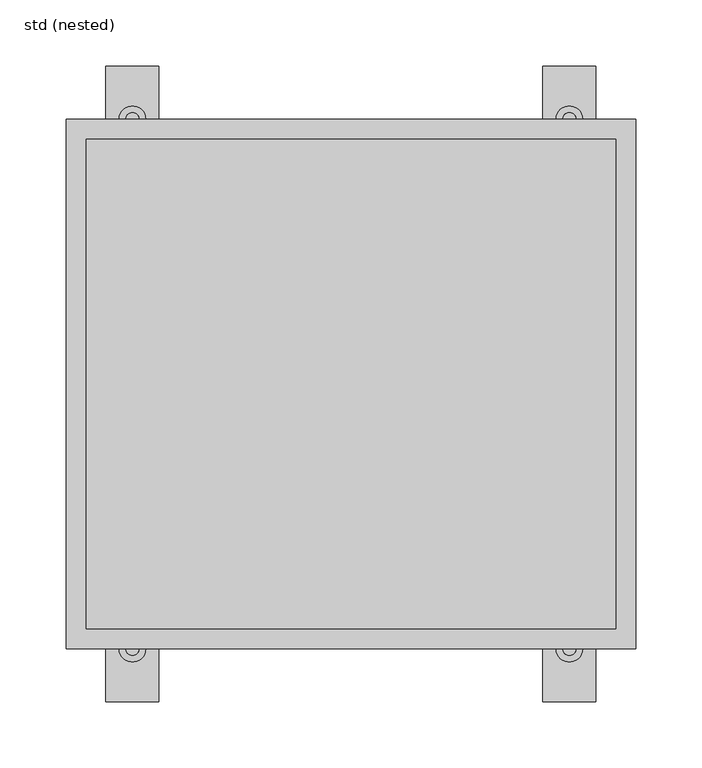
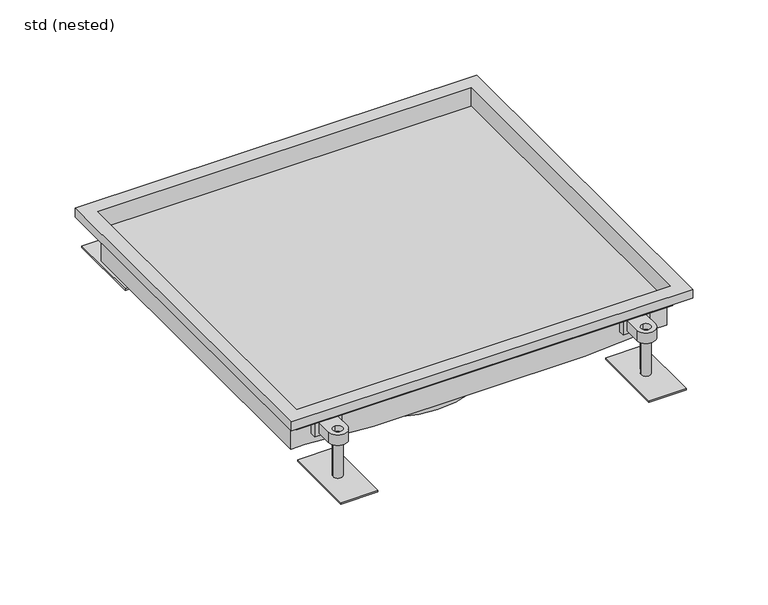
"""IFC4 building model written with IfcOpenShell, lengths in millimetres: sanitary terminal geometry, ZZZ_do not use_PF_ST_UN_custom hygienic box channel_ACO : std (nested)."""

from ifc_helpers import new_model, si_unit, point, frame, frame_2d, origin, place, context, project, spatial, polyline, circle_curve, trimmed, segment, composite_curve, outline, extrude, faceted_brep, source, transform, mapped, element, save
from ifc_brep_helpers import plane_surface, cylinder_surface, advanced_brep


def std_nested_12b8dc3f(model_context):
    return source(origin(), model_context, "Body", "SolidModel", [
        extrude(outline(composite_curve([segment(polyline([(175.0, 182.5), (155.0, 182.5), (155.0, 200.0)]), True, "CONTINUOUS"), segment(trimmed(circle_curve(frame_2d((165.0, 200.0)), 10.0), [point((155.0, 200.0))], [point((175.0, 200.0))], False, "CARTESIAN"), True, "CONTINUOUS"), segment(polyline([(175.0, 200.0), (175.0, 182.5)]), True, "CONTINUOUS")], self_intersect=False), holes=[composite_curve([segment(trimmed(circle_curve(frame_2d((165.0, 200.0)), 5.0), [point((165.0, 195.0))], [point((165.0, 205.0))], True, "CARTESIAN"), True, "CONTINUOUS"), segment(trimmed(circle_curve(frame_2d((165.0, 200.0)), 5.0), [point((165.0, 205.0))], [point((165.0, 195.0))], True, "CARTESIAN"), True, "CONTINUOUS")], self_intersect=False)]), frame((0.0, 0.0, -37.0), z_axis=(0.0, 0.0, 1.0), x_axis=(1.0, 0.0, 0.0)), (0.0, 0.0, 1.0), 12.0),
        advanced_brep(
        [(160.0, 200.0, -31.0), (170.0, 200.0, -31.0), (185.0, 160.0, -79.5), (145.0, 160.0, -79.5), (145.0, 240.0, -79.5), (185.0, 240.0, -79.5), (170.0, 200.0, -77.5), (160.0, 200.0, -77.5), (185.0, 160.0, -77.5), (185.0, 240.0, -77.5), (145.0, 240.0, -77.5), (145.0, 160.0, -77.5)],
        [
            (0, 1, circle_curve(frame((165.0, 200.0, -31.0), z_axis=(0.0, 0.0, 1.0), x_axis=(1.0, 0.0, 0.0)), 5.0)),
            (1, 0, circle_curve(frame((165.0, 200.0, -31.0), z_axis=(0.0, 0.0, 1.0), x_axis=(1.0, 0.0, 0.0)), 5.0)),
            (2, 3),
            (3, 4),
            (4, 5),
            (5, 2),
            (1, 6),
            (6, 7, circle_curve(frame((165.0, 200.0, -77.5), z_axis=(0.0, 0.0, 1.0), x_axis=(1.0, 0.0, 0.0)), 5.0)),
            (7, 0),
            (7, 6, circle_curve(frame((165.0, 200.0, -77.5), z_axis=(0.0, 0.0, 1.0), x_axis=(1.0, 0.0, 0.0)), 5.0)),
            (8, 9),
            (9, 10),
            (10, 11),
            (11, 8),
            (11, 3),
            (2, 8),
            (10, 4),
            (9, 5),
        ],
        [
            plane_surface(frame((170.0, 200.0, -31.0), z_axis=(0.0, 0.0, 1.0), x_axis=(0.0, -1.0, 0.0))),
            plane_surface(frame((170.0, 200.0, -79.5), z_axis=(0.0, 0.0, -1.0), x_axis=(0.0, 1.0, 0.0))),
            cylinder_surface(frame((165.0, 200.0, -79.5), z_axis=(0.0, 0.0, 1.0), x_axis=(1.0, 0.0, 0.0)), 5.0),
            plane_surface(frame((145.0, 160.0, -77.5), z_axis=(0.0, 0.0, 1.0), x_axis=(-1.0, 0.0, 0.0))),
            plane_surface(frame((185.0, 160.0, -77.5), z_axis=(0.0, -1.0, 0.0), x_axis=(0.0, 0.0, -1.0))),
            plane_surface(frame((145.0, 160.0, -77.5), z_axis=(-1.0, 0.0, 0.0), x_axis=(0.0, 0.0, -1.0))),
            plane_surface(frame((145.0, 240.0, -77.5), z_axis=(0.0, 1.0, 0.0), x_axis=(0.0, 0.0, -1.0))),
            plane_surface(frame((185.0, 240.0, -77.5), z_axis=(1.0, 0.0, 0.0), x_axis=(0.0, 0.0, -1.0))),
        ],
        [
            (0, [[1, 2]]),
            (1, [[3, 4, 5, 6]]),
            (2, [[7, 8, 9, -2]]),
            (2, [[-9, 10, -7, -1]]),
            (3, [[11, 12, 13, 14], [-10, -8]]),
            (4, [[15, -3, 16, -14]]),
            (5, [[17, -4, -15, -13]]),
            (6, [[18, -5, -17, -12]]),
            (7, [[-16, -6, -18, -11]]),
        ],
    ),
        extrude(outline(polyline([(179.35, 174.5), (150.65, 174.5), (150.65, 182.5), (179.35, 182.5), (179.35, 174.5)])), frame((0.0, 0.0, -40.0), z_axis=(0.0, 0.0, 1.0), x_axis=(1.0, 0.0, 0.0)), (0.0, 0.0, 1.0), 18.0),
        extrude(outline(composite_curve([segment(polyline([(175.0, -182.5), (175.0, -200.0)]), True, "CONTINUOUS"), segment(trimmed(circle_curve(frame_2d((165.0, -200.0)), 10.0), [point((175.0, -200.0))], [point((155.0, -200.0))], False, "CARTESIAN"), True, "CONTINUOUS"), segment(polyline([(155.0, -200.0), (155.0, -182.5), (175.0, -182.5)]), True, "CONTINUOUS")], self_intersect=False), holes=[composite_curve([segment(trimmed(circle_curve(frame_2d((165.0, -200.0)), 5.0), [point((165.0, -195.0))], [point((165.0, -205.0))], True, "CARTESIAN"), True, "CONTINUOUS"), segment(trimmed(circle_curve(frame_2d((165.0, -200.0)), 5.0), [point((165.0, -205.0))], [point((165.0, -195.0))], True, "CARTESIAN"), True, "CONTINUOUS")], self_intersect=False)]), frame((0.0, 0.0, -37.0), z_axis=(0.0, 0.0, 1.0), x_axis=(1.0, 0.0, 0.0)), (0.0, 0.0, 1.0), 12.0),
        advanced_brep(
        [(160.0, -200.0, -31.0), (170.0, -200.0, -31.0), (185.0, -160.0, -79.5), (185.0, -240.0, -79.5), (145.0, -240.0, -79.5), (145.0, -160.0, -79.5), (160.0, -200.0, -77.5), (170.0, -200.0, -77.5), (185.0, -160.0, -77.5), (145.0, -160.0, -77.5), (145.0, -240.0, -77.5), (185.0, -240.0, -77.5)],
        [
            (0, 1, circle_curve(frame((165.0, -200.0, -31.0), z_axis=(0.0, 0.0, 1.0), x_axis=(1.0, 0.0, 0.0)), 5.0)),
            (1, 0, circle_curve(frame((165.0, -200.0, -31.0), z_axis=(0.0, 0.0, 1.0), x_axis=(1.0, 0.0, 0.0)), 5.0)),
            (2, 3),
            (3, 4),
            (4, 5),
            (5, 2),
            (0, 6),
            (6, 7, circle_curve(frame((165.0, -200.0, -77.5), z_axis=(0.0, 0.0, 1.0), x_axis=(1.0, 0.0, 0.0)), 5.0)),
            (7, 1),
            (7, 6, circle_curve(frame((165.0, -200.0, -77.5), z_axis=(0.0, 0.0, 1.0), x_axis=(1.0, 0.0, 0.0)), 5.0)),
            (8, 9),
            (9, 10),
            (10, 11),
            (11, 8),
            (8, 2),
            (5, 9),
            (4, 10),
            (3, 11),
        ],
        [
            plane_surface(frame((170.0, -200.0, -31.0), z_axis=(0.0, 0.0, 1.0), x_axis=(0.0, 1.0, 0.0))),
            plane_surface(frame((170.0, -200.0, -79.5), z_axis=(0.0, 0.0, -1.0), x_axis=(0.0, -1.0, 0.0))),
            cylinder_surface(frame((165.0, -200.0, -79.5), z_axis=(0.0, 0.0, 1.0), x_axis=(1.0, 0.0, 0.0)), 5.0),
            plane_surface(frame((145.0, -160.0, -77.5), z_axis=(0.0, 0.0, 1.0), x_axis=(-1.0, 0.0, 0.0))),
            plane_surface(frame((185.0, -160.0, -77.5), z_axis=(0.0, 1.0, 0.0), x_axis=(0.0, 0.0, -1.0))),
            plane_surface(frame((145.0, -160.0, -77.5), z_axis=(-1.0, 0.0, 0.0), x_axis=(0.0, 0.0, -1.0))),
            plane_surface(frame((145.0, -240.0, -77.5), z_axis=(0.0, -1.0, 0.0), x_axis=(0.0, 0.0, -1.0))),
            plane_surface(frame((185.0, -240.0, -77.5), z_axis=(1.0, 0.0, 0.0), x_axis=(0.0, 0.0, -1.0))),
        ],
        [
            (0, [[1, 2]]),
            (1, [[3, 4, 5, 6]]),
            (2, [[-1, 7, 8, 9]]),
            (2, [[-2, -9, 10, -7]]),
            (3, [[11, 12, 13, 14], [-8, -10]]),
            (4, [[-11, 15, -6, 16]]),
            (5, [[-12, -16, -5, 17]]),
            (6, [[-13, -17, -4, 18]]),
            (7, [[-14, -18, -3, -15]]),
        ],
    ),
        extrude(outline(polyline([(179.35, -174.5), (179.35, -182.5), (150.65, -182.5), (150.65, -174.5), (179.35, -174.5)])), frame((0.0, 0.0, -40.0), z_axis=(0.0, 0.0, 1.0), x_axis=(1.0, 0.0, 0.0)), (0.0, 0.0, 1.0), 18.0),
        extrude(outline(composite_curve([segment(polyline([(-155.0, 182.5), (-175.0, 182.5), (-175.0, 200.0)]), True, "CONTINUOUS"), segment(trimmed(circle_curve(frame_2d((-165.0, 200.0)), 10.0), [point((-175.0, 200.0))], [point((-155.0, 200.0))], False, "CARTESIAN"), True, "CONTINUOUS"), segment(polyline([(-155.0, 200.0), (-155.0, 182.5)]), True, "CONTINUOUS")], self_intersect=False), holes=[composite_curve([segment(trimmed(circle_curve(frame_2d((-165.0, 200.0)), 5.0), [point((-165.0, 195.0))], [point((-165.0, 205.0))], True, "CARTESIAN"), True, "CONTINUOUS"), segment(trimmed(circle_curve(frame_2d((-165.0, 200.0)), 5.0), [point((-165.0, 205.0))], [point((-165.0, 195.0))], True, "CARTESIAN"), True, "CONTINUOUS")], self_intersect=False)]), frame((0.0, 0.0, -37.0), z_axis=(0.0, 0.0, 1.0), x_axis=(1.0, 0.0, 0.0)), (0.0, 0.0, 1.0), 12.0),
        advanced_brep(
        [(-170.0, 200.0, -31.0), (-160.0, 200.0, -31.0), (-145.0, 160.0, -79.5), (-185.0, 160.0, -79.5), (-185.0, 240.0, -79.5), (-145.0, 240.0, -79.5), (-160.0, 200.0, -77.5), (-170.0, 200.0, -77.5), (-145.0, 160.0, -77.5), (-145.0, 240.0, -77.5), (-185.0, 240.0, -77.5), (-185.0, 160.0, -77.5)],
        [
            (0, 1, circle_curve(frame((-165.0, 200.0, -31.0), z_axis=(0.0, 0.0, 1.0), x_axis=(1.0, 0.0, 0.0)), 5.0)),
            (1, 0, circle_curve(frame((-165.0, 200.0, -31.0), z_axis=(0.0, 0.0, 1.0), x_axis=(1.0, 0.0, 0.0)), 5.0)),
            (2, 3),
            (3, 4),
            (4, 5),
            (5, 2),
            (1, 6),
            (6, 7, circle_curve(frame((-165.0, 200.0, -77.5), z_axis=(0.0, 0.0, 1.0), x_axis=(1.0, 0.0, 0.0)), 5.0)),
            (7, 0),
            (7, 6, circle_curve(frame((-165.0, 200.0, -77.5), z_axis=(0.0, 0.0, 1.0), x_axis=(1.0, 0.0, 0.0)), 5.0)),
            (8, 9),
            (9, 10),
            (10, 11),
            (11, 8),
            (11, 3),
            (2, 8),
            (10, 4),
            (9, 5),
        ],
        [
            plane_surface(frame((-160.0, 200.0, -31.0), z_axis=(0.0, 0.0, 1.0), x_axis=(0.0, -1.0, 0.0))),
            plane_surface(frame((-160.0, 200.0, -79.5), z_axis=(0.0, 0.0, -1.0), x_axis=(0.0, 1.0, 0.0))),
            cylinder_surface(frame((-165.0, 200.0, -79.5), z_axis=(0.0, 0.0, 1.0), x_axis=(1.0, 0.0, 0.0)), 5.0),
            plane_surface(frame((-185.0, 160.0, -77.5), z_axis=(0.0, 0.0, 1.0), x_axis=(-1.0, 0.0, 0.0))),
            plane_surface(frame((-145.0, 160.0, -77.5), z_axis=(0.0, -1.0, 0.0), x_axis=(0.0, 0.0, -1.0))),
            plane_surface(frame((-185.0, 160.0, -77.5), z_axis=(-1.0, 0.0, 0.0), x_axis=(0.0, 0.0, -1.0))),
            plane_surface(frame((-185.0, 240.0, -77.5), z_axis=(0.0, 1.0, 0.0), x_axis=(0.0, 0.0, -1.0))),
            plane_surface(frame((-145.0, 240.0, -77.5), z_axis=(1.0, 0.0, 0.0), x_axis=(0.0, 0.0, -1.0))),
        ],
        [
            (0, [[1, 2]]),
            (1, [[3, 4, 5, 6]]),
            (2, [[7, 8, 9, -2]]),
            (2, [[-9, 10, -7, -1]]),
            (3, [[11, 12, 13, 14], [-10, -8]]),
            (4, [[15, -3, 16, -14]]),
            (5, [[17, -4, -15, -13]]),
            (6, [[18, -5, -17, -12]]),
            (7, [[-16, -6, -18, -11]]),
        ],
    ),
        extrude(outline(polyline([(-150.65, 174.5), (-179.35, 174.5), (-179.35, 182.5), (-150.65, 182.5), (-150.65, 174.5)])), frame((0.0, 0.0, -40.0), z_axis=(0.0, 0.0, 1.0), x_axis=(1.0, 0.0, 0.0)), (0.0, 0.0, 1.0), 18.0),
        extrude(outline(composite_curve([segment(polyline([(-155.0, -182.5), (-155.0, -200.0)]), True, "CONTINUOUS"), segment(trimmed(circle_curve(frame_2d((-165.0, -200.0)), 10.0), [point((-155.0, -200.0))], [point((-175.0, -200.0))], False, "CARTESIAN"), True, "CONTINUOUS"), segment(polyline([(-175.0, -200.0), (-175.0, -182.5), (-155.0, -182.5)]), True, "CONTINUOUS")], self_intersect=False), holes=[composite_curve([segment(trimmed(circle_curve(frame_2d((-165.0, -200.0)), 5.0), [point((-165.0, -195.0))], [point((-165.0, -205.0))], True, "CARTESIAN"), True, "CONTINUOUS"), segment(trimmed(circle_curve(frame_2d((-165.0, -200.0)), 5.0), [point((-165.0, -205.0))], [point((-165.0, -195.0))], True, "CARTESIAN"), True, "CONTINUOUS")], self_intersect=False)]), frame((0.0, 0.0, -37.0), z_axis=(0.0, 0.0, 1.0), x_axis=(1.0, 0.0, 0.0)), (0.0, 0.0, 1.0), 12.0),
        advanced_brep(
        [(-170.0, -200.0, -31.0), (-160.0, -200.0, -31.0), (-145.0, -160.0, -79.5), (-145.0, -240.0, -79.5), (-185.0, -240.0, -79.5), (-185.0, -160.0, -79.5), (-170.0, -200.0, -77.5), (-160.0, -200.0, -77.5), (-145.0, -160.0, -77.5), (-185.0, -160.0, -77.5), (-185.0, -240.0, -77.5), (-145.0, -240.0, -77.5)],
        [
            (0, 1, circle_curve(frame((-165.0, -200.0, -31.0), z_axis=(0.0, 0.0, 1.0), x_axis=(1.0, 0.0, 0.0)), 5.0)),
            (1, 0, circle_curve(frame((-165.0, -200.0, -31.0), z_axis=(0.0, 0.0, 1.0), x_axis=(1.0, 0.0, 0.0)), 5.0)),
            (2, 3),
            (3, 4),
            (4, 5),
            (5, 2),
            (0, 6),
            (6, 7, circle_curve(frame((-165.0, -200.0, -77.5), z_axis=(0.0, 0.0, 1.0), x_axis=(1.0, 0.0, 0.0)), 5.0)),
            (7, 1),
            (7, 6, circle_curve(frame((-165.0, -200.0, -77.5), z_axis=(0.0, 0.0, 1.0), x_axis=(1.0, 0.0, 0.0)), 5.0)),
            (8, 9),
            (9, 10),
            (10, 11),
            (11, 8),
            (8, 2),
            (5, 9),
            (4, 10),
            (3, 11),
        ],
        [
            plane_surface(frame((-160.0, -200.0, -31.0), z_axis=(0.0, 0.0, 1.0), x_axis=(0.0, 1.0, 0.0))),
            plane_surface(frame((-160.0, -200.0, -79.5), z_axis=(0.0, 0.0, -1.0), x_axis=(0.0, -1.0, 0.0))),
            cylinder_surface(frame((-165.0, -200.0, -79.5), z_axis=(0.0, 0.0, 1.0), x_axis=(1.0, 0.0, 0.0)), 5.0),
            plane_surface(frame((-185.0, -160.0, -77.5), z_axis=(0.0, 0.0, 1.0), x_axis=(-1.0, 0.0, 0.0))),
            plane_surface(frame((-145.0, -160.0, -77.5), z_axis=(0.0, 1.0, 0.0), x_axis=(0.0, 0.0, -1.0))),
            plane_surface(frame((-185.0, -160.0, -77.5), z_axis=(-1.0, 0.0, 0.0), x_axis=(0.0, 0.0, -1.0))),
            plane_surface(frame((-185.0, -240.0, -77.5), z_axis=(0.0, -1.0, 0.0), x_axis=(0.0, 0.0, -1.0))),
            plane_surface(frame((-145.0, -240.0, -77.5), z_axis=(1.0, 0.0, 0.0), x_axis=(0.0, 0.0, -1.0))),
        ],
        [
            (0, [[1, 2]]),
            (1, [[3, 4, 5, 6]]),
            (2, [[-1, 7, 8, 9]]),
            (2, [[-2, -9, 10, -7]]),
            (3, [[11, 12, 13, 14], [-8, -10]]),
            (4, [[-11, 15, -6, 16]]),
            (5, [[-12, -16, -5, 17]]),
            (6, [[-13, -17, -4, 18]]),
            (7, [[-14, -18, -3, -15]]),
        ],
    ),
        extrude(outline(polyline([(-150.65, -174.5), (-150.65, -182.5), (-179.35, -182.5), (-179.35, -174.5), (-150.65, -174.5)])), frame((0.0, 0.0, -40.0), z_axis=(0.0, 0.0, 1.0), x_axis=(1.0, 0.0, 0.0)), (0.0, 0.0, 1.0), 18.0),
        faceted_brep([(-200.0, 185.0, -22.0), (-200.0, 185.0, -20.5), (200.0, 185.0, -20.5), (200.0, 185.0, -22.0), (-200.0, -185.0, -20.5), (200.0, -185.0, -20.5), (-200.0, -185.0, -22.0), (200.0, -185.0, -22.0), (-200.0, -176.0, -22.0), (200.0, -176.0, -22.0), (200.0, 176.0, -22.0), (-200.0, 176.0, -22.0), (113.0, -176.0, -55.0), (186.5, -176.0, -50.0), (201.5, -176.0, -50.0), (201.5, -176.0, -22.0), (-201.5, -176.0, -22.0), (-201.5, -176.0, -50.0), (-186.5, -176.0, -50.0), (-113.0, -176.0, -55.0), (113.0, 176.0, -55.0), (186.5, 176.0, -50.0), (-113.0, 176.0, -55.0), (-186.5, 176.0, -50.0), (-201.5, 176.0, -50.0), (-201.5, 176.0, -22.0), (201.5, 176.0, -22.0), (201.5, 176.0, -50.0)], [[[0, 1, 2, 3]], [[1, 4, 5, 2]], [[4, 6, 7, 5]], [[6, 8, 9, 7]], [[10, 11, 0, 3]], [[12, 13, 14, 15, 9, 8, 16, 17, 18, 19]], [[13, 12, 20, 21]], [[21, 20, 22, 23, 24, 25, 11, 10, 26, 27]], [[22, 20, 12, 19]], [[19, 18, 23, 22]], [[24, 17, 16, 25]], [[25, 16, 8, 11]], [[17, 24, 23, 18]], [[4, 1, 0, 11, 8, 6]], [[5, 7, 9, 10, 3, 2]], [[26, 15, 14, 27]], [[15, 26, 10, 9]], [[27, 14, 13, 21]]]),
        advanced_brep(
        [(-100.0, 0.0, -121.5), (100.0, 0.0, -121.5), (0.0, 0.0, -121.5), (-100.0, 0.0, -60.0), (100.0, 0.0, -60.0), (-113.0, 0.0, -60.0), (113.0, 0.0, -60.0), (-113.0, 0.0, -55.0), (113.0, 0.0, -55.0), (0.0, 0.0, -55.0)],
        [
            (0, 1, circle_curve(frame((0.0, 0.0, -121.5), z_axis=(0.0, 0.0, -1.0), x_axis=(1.0, 0.0, 0.0)), 100.0)),
            (1, 2),
            (2, 0),
            (1, 0, circle_curve(frame((0.0, 0.0, -121.5), z_axis=(0.0, 0.0, -1.0), x_axis=(1.0, 0.0, 0.0)), 100.0)),
            (3, 4, circle_curve(frame((0.0, 0.0, -60.0), z_axis=(0.0, 0.0, -1.0), x_axis=(1.0, 0.0, 0.0)), 100.0)),
            (4, 1),
            (0, 3),
            (4, 3, circle_curve(frame((0.0, 0.0, -60.0), z_axis=(0.0, 0.0, -1.0), x_axis=(1.0, 0.0, 0.0)), 100.0)),
            (5, 6, circle_curve(frame((0.0, 0.0, -60.0), z_axis=(0.0, 0.0, -1.0), x_axis=(1.0, 0.0, 0.0)), 113.0)),
            (6, 4),
            (3, 5),
            (6, 5, circle_curve(frame((0.0, 0.0, -60.0), z_axis=(0.0, 0.0, -1.0), x_axis=(1.0, 0.0, 0.0)), 113.0)),
            (7, 8, circle_curve(frame((0.0, 0.0, -55.0), z_axis=(0.0, 0.0, -1.0), x_axis=(1.0, 0.0, 0.0)), 113.0)),
            (8, 6),
            (5, 7),
            (8, 7, circle_curve(frame((0.0, 0.0, -55.0), z_axis=(0.0, 0.0, -1.0), x_axis=(1.0, 0.0, 0.0)), 113.0)),
            (9, 8),
            (7, 9),
        ],
        [
            plane_surface(frame((0.0, 0.0, -121.5), z_axis=(0.0, 0.0, -1.0), x_axis=(1.0, 0.0, 0.0))),
            cylinder_surface(frame((0.0, 0.0, -130.0), z_axis=(0.0, 0.0, 1.0), x_axis=(1.0, 0.0, 0.0)), 100.0),
            plane_surface(frame((0.0, 0.0, -60.0), z_axis=(0.0, 0.0, -1.0), x_axis=(1.0, 0.0, 0.0))),
            cylinder_surface(frame((0.0, 0.0, -130.0), z_axis=(0.0, 0.0, 1.0), x_axis=(1.0, 0.0, 0.0)), 113.0),
            plane_surface(frame((0.0, 0.0, -55.0), z_axis=(0.0, 0.0, 1.0), x_axis=(1.0, 0.0, 0.0))),
        ],
        [
            (0, [[1, 2, 3]]),
            (0, [[4, -3, -2]]),
            (1, [[5, 6, -1, 7]]),
            (1, [[8, -7, -4, -6]]),
            (2, [[9, 10, -5, 11]]),
            (2, [[12, -11, -8, -10]]),
            (3, [[13, 14, -9, 15]]),
            (3, [[16, -15, -12, -14]]),
            (4, [[17, -13, 18]]),
            (4, [[-18, -16, -17]]),
        ],
    ),
        faceted_brep([(215.0, 200.0, -10.0), (215.0, 200.0, 0.0), (215.0, -200.0, 0.0), (215.0, -200.0, -10.0), (201.5, 186.5, -22.0), (201.5, 186.5, -1.5), (201.5, -186.5, -1.5), (201.5, -186.5, -22.0), (200.0, 185.0, 0.0), (200.0, 185.0, -22.0), (200.0, -185.0, -22.0), (200.0, -185.0, 0.0), (-215.0, -200.0, 0.0), (-215.0, -200.0, -10.0), (-201.5, -186.5, -1.5), (-201.5, -186.5, -22.0), (-200.0, -185.0, -22.0), (-200.0, -185.0, 0.0), (-215.0, 200.0, 0.0), (-215.0, 200.0, -10.0), (-201.5, 186.5, -1.5), (-201.5, 186.5, -22.0), (-200.0, 185.0, -22.0), (-200.0, 185.0, 0.0), (213.5, 198.5, -10.0), (-213.5, 198.5, -10.0), (-213.5, -198.5, -10.0), (213.5, -198.5, -10.0), (213.5, 198.5, -1.5), (213.5, -198.5, -1.5), (-213.5, -198.5, -1.5), (-213.5, 198.5, -1.5)], [[[0, 1, 2, 3]], [[4, 5, 6, 7]], [[8, 9, 10, 11]], [[3, 2, 12, 13]], [[7, 6, 14, 15]], [[11, 10, 16, 17]], [[13, 12, 18, 19]], [[15, 14, 20, 21]], [[17, 16, 22, 23]], [[19, 18, 1, 0]], [[3, 13, 19, 0], [24, 25, 26, 27]], [[21, 20, 5, 4]], [[7, 15, 21, 4], [9, 22, 16, 10]], [[23, 22, 9, 8]], [[1, 18, 12, 2], [11, 17, 23, 8]], [[28, 24, 27, 29]], [[29, 27, 26, 30]], [[30, 26, 25, 31]], [[31, 25, 24, 28]], [[29, 30, 31, 28], [5, 20, 14, 6]]]),
    ])


if __name__ == "__main__":
    model = new_model("IFC4")
    model_context = context("Model", 3, world=origin())
    ifc_project = project(units=[si_unit("LENGTHUNIT", "METRE", prefix="MILLI")], contexts=[model_context])
    site = spatial("IfcSite", under=ifc_project)
    building = spatial("IfcBuilding", under=site)
    placement = place(None, origin())
    std_nested_shape = std_nested_12b8dc3f(model_context)
    element("IfcSanitaryTerminal", 1, ObjectType="ZZZ_do not use_PF_ST_UN_custom hygienic box channel_ACO : std (nested)", at=placement, inside=building, context=model_context, shape_type="MappedRepresentation", body=[
        mapped(std_nested_shape, transform((0.0, 0.0, 0.0), x_axis=(1.0, 0.0, 0.0), y_axis=(0.0, 1.0, 0.0), z_axis=(0.0, 0.0, 1.0))),
    ])
    save(model, "model.ifc")
